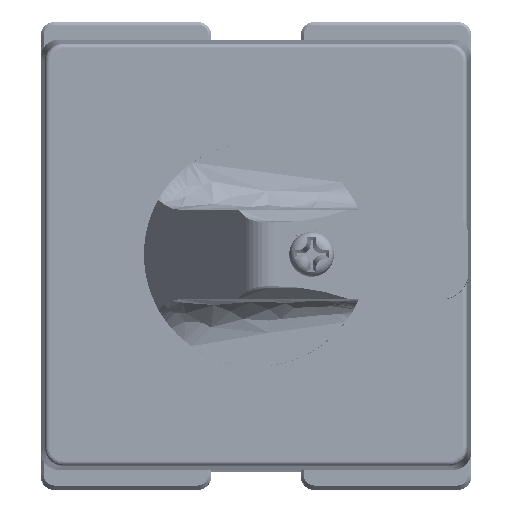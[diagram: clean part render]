
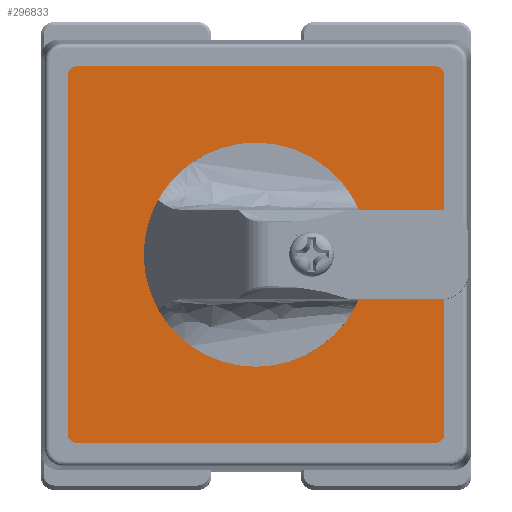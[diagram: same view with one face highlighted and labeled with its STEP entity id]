
A CAD part, top view. The second image highlights one B-rep face of the part: STEP entity #296833.
In plain terms, the highlighted planar face has unit normal (0, 0, 1).
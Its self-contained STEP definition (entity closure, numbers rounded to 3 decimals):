
#476 = VERTEX_POINT ( 'NONE', #166241 ) ;
#933 = EDGE_CURVE ( 'NONE', #186342, #271520, #3937, .T. ) ;
#3937 = CIRCLE ( 'NONE', #244985, 10.35 ) ;
#11523 = DIRECTION ( 'NONE',  ( 0., 0., 1. ) ) ;
#16529 = ORIENTED_EDGE ( 'NONE', *, *, #279291, .T. ) ;
#36412 = CARTESIAN_POINT ( 'NONE',  ( -14.639, -25.111, -12.982 ) ) ;
#47938 = ORIENTED_EDGE ( 'NONE', *, *, #933, .F. ) ;
#48652 = CIRCLE ( 'NONE', #119539, 10.35 ) ;
#51114 = CARTESIAN_POINT ( 'NONE',  ( -14.639, -25.111, -12.982 ) ) ;
#58379 = DIRECTION ( 'NONE',  ( 0., -1., 0. ) ) ;
#59382 = EDGE_CURVE ( 'NONE', #305731, #219670, #235883, .T. ) ;
#59928 = ORIENTED_EDGE ( 'NONE', *, *, #311060, .T. ) ;
#65899 = AXIS2_PLACEMENT_3D ( 'NONE', #72930, #101806, #220349 ) ;
#68033 = EDGE_CURVE ( 'NONE', #109304, #166619, #145056, .T. ) ;
#72930 = CARTESIAN_POINT ( 'NONE',  ( 26.361, 14.889, -12.982 ) ) ;
#72973 = ORIENTED_EDGE ( 'NONE', *, *, #68033, .T. ) ;
#78784 = AXIS2_PLACEMENT_3D ( 'NONE', #153014, #354215, #210927 ) ;
#87238 = CARTESIAN_POINT ( 'NONE',  ( -13.639, -25.111, -12.982 ) ) ;
#90465 = ORIENTED_EDGE ( 'NONE', *, *, #271969, .T. ) ;
#95358 = ORIENTED_EDGE ( 'NONE', *, *, #335578, .T. ) ;
#96256 = CARTESIAN_POINT ( 'NONE',  ( -13.639, 15.889, -12.982 ) ) ;
#100928 = VERTEX_POINT ( 'NONE', #96256 ) ;
#101806 = DIRECTION ( 'NONE',  ( 0., 0., 1. ) ) ;
#104819 = AXIS2_PLACEMENT_3D ( 'NONE', #87238, #231028, #58379 ) ;
#109304 = VERTEX_POINT ( 'NONE', #353921 ) ;
#110776 = DIRECTION ( 'NONE',  ( 0., 0., 1. ) ) ;
#112411 = ORIENTED_EDGE ( 'NONE', *, *, #59382, .T. ) ;
#114471 = DIRECTION ( 'NONE',  ( 0., 1., 0. ) ) ;
#119539 = AXIS2_PLACEMENT_3D ( 'NONE', #344697, #314694, #114471 ) ;
#127447 = AXIS2_PLACEMENT_3D ( 'NONE', #269721, #11523, #151376 ) ;
#136341 = VERTEX_POINT ( 'NONE', #170230 ) ;
#139872 = FACE_BOUND ( 'NONE', #205344, .T. ) ;
#145056 = CIRCLE ( 'NONE', #127447, 1. ) ;
#150415 = EDGE_CURVE ( 'NONE', #136341, #100928, #324802, .T. ) ;
#151376 = DIRECTION ( 'NONE',  ( 0., -1., 0. ) ) ;
#153014 = CARTESIAN_POINT ( 'NONE',  ( -13.639, 14.889, -12.982 ) ) ;
#166241 = CARTESIAN_POINT ( 'NONE',  ( -14.639, 14.889, -12.982 ) ) ;
#166619 = VERTEX_POINT ( 'NONE', #372571 ) ;
#170230 = CARTESIAN_POINT ( 'NONE',  ( 26.361, 15.889, -12.982 ) ) ;
#173721 = VECTOR ( 'NONE', #266831, 1000. ) ;
#181953 = CARTESIAN_POINT ( 'NONE',  ( -13.639, -26.111, -12.982 ) ) ;
#183332 = CARTESIAN_POINT ( 'NONE',  ( -13.639, 15.889, -12.982 ) ) ;
#186342 = VERTEX_POINT ( 'NONE', #323004 ) ;
#189322 = ORIENTED_EDGE ( 'NONE', *, *, #319598, .T. ) ;
#191791 = CARTESIAN_POINT ( 'NONE',  ( 27.361, 14.889, -12.982 ) ) ;
#205344 = EDGE_LOOP ( 'NONE', ( #47938, #322511 ) ) ;
#210439 = DIRECTION ( 'NONE',  ( 0., 1., 0. ) ) ;
#210927 = DIRECTION ( 'NONE',  ( 0., 1., 0. ) ) ;
#219670 = VERTEX_POINT ( 'NONE', #280445 ) ;
#220349 = DIRECTION ( 'NONE',  ( 0., -1., 0. ) ) ;
#231028 = DIRECTION ( 'NONE',  ( 0., 0., 1. ) ) ;
#233088 = CIRCLE ( 'NONE', #365297, 1. ) ;
#233422 = CARTESIAN_POINT ( 'NONE',  ( 6.361, 5.239, -12.982 ) ) ;
#234083 = DIRECTION ( 'NONE',  ( 0., 1., 0. ) ) ;
#235883 = CIRCLE ( 'NONE', #104819, 1. ) ;
#240680 = DIRECTION ( 'NONE',  ( 0., 0., 1. ) ) ;
#244395 = CIRCLE ( 'NONE', #65899, 1. ) ;
#244707 = VERTEX_POINT ( 'NONE', #191791 ) ;
#244985 = AXIS2_PLACEMENT_3D ( 'NONE', #353705, #240680, #210439 ) ;
#260611 = CARTESIAN_POINT ( 'NONE',  ( -13.639, 14.889, -12.982 ) ) ;
#262819 = ORIENTED_EDGE ( 'NONE', *, *, #150415, .T. ) ;
#266831 = DIRECTION ( 'NONE',  ( 0., -1., 0. ) ) ;
#269721 = CARTESIAN_POINT ( 'NONE',  ( 26.361, -25.111, -12.982 ) ) ;
#271520 = VERTEX_POINT ( 'NONE', #233422 ) ;
#271969 = EDGE_CURVE ( 'NONE', #100928, #476, #233088, .T. ) ;
#277493 = LINE ( 'NONE', #36412, #173721 ) ;
#279291 = EDGE_CURVE ( 'NONE', #166619, #244707, #280552, .T. ) ;
#279795 = FACE_OUTER_BOUND ( 'NONE', #292041, .T. ) ;
#280445 = CARTESIAN_POINT ( 'NONE',  ( -13.639, -26.111, -12.982 ) ) ;
#280552 = LINE ( 'NONE', #353241, #320910 ) ;
#280809 = EDGE_CURVE ( 'NONE', #271520, #186342, #48652, .T. ) ;
#285893 = LINE ( 'NONE', #181953, #339868 ) ;
#288833 = VECTOR ( 'NONE', #345644, 1000. ) ;
#292041 = EDGE_LOOP ( 'NONE', ( #90465, #59928, #112411, #95358, #72973, #16529, #189322, #262819 ) ) ;
#296833 = ADVANCED_FACE ( 'NONE', ( #279795, #139872 ), #330334, .T. ) ;
#305731 = VERTEX_POINT ( 'NONE', #51114 ) ;
#311060 = EDGE_CURVE ( 'NONE', #476, #305731, #277493, .T. ) ;
#314694 = DIRECTION ( 'NONE',  ( 0., 0., 1. ) ) ;
#319598 = EDGE_CURVE ( 'NONE', #244707, #136341, #244395, .T. ) ;
#320910 = VECTOR ( 'NONE', #234083, 1000. ) ;
#321802 = DIRECTION ( 'NONE',  ( 1., 0., 0. ) ) ;
#322511 = ORIENTED_EDGE ( 'NONE', *, *, #280809, .F. ) ;
#323004 = CARTESIAN_POINT ( 'NONE',  ( 6.361, -15.461, -12.982 ) ) ;
#324802 = LINE ( 'NONE', #183332, #288833 ) ;
#330334 = PLANE ( 'NONE',  #78784 ) ;
#335578 = EDGE_CURVE ( 'NONE', #219670, #109304, #285893, .T. ) ;
#339868 = VECTOR ( 'NONE', #321802, 1000. ) ;
#344697 = CARTESIAN_POINT ( 'NONE',  ( 6.361, -5.111, -12.982 ) ) ;
#345644 = DIRECTION ( 'NONE',  ( -1., 0., 0. ) ) ;
#353241 = CARTESIAN_POINT ( 'NONE',  ( 27.361, -25.111, -12.982 ) ) ;
#353705 = CARTESIAN_POINT ( 'NONE',  ( 6.361, -5.111, -12.982 ) ) ;
#353921 = CARTESIAN_POINT ( 'NONE',  ( 26.361, -26.111, -12.982 ) ) ;
#354215 = DIRECTION ( 'NONE',  ( 0., 0., 1. ) ) ;
#365297 = AXIS2_PLACEMENT_3D ( 'NONE', #260611, #110776, #369980 ) ;
#369980 = DIRECTION ( 'NONE',  ( 0., 1., 0. ) ) ;
#372571 = CARTESIAN_POINT ( 'NONE',  ( 27.361, -25.111, -12.982 ) ) ;
